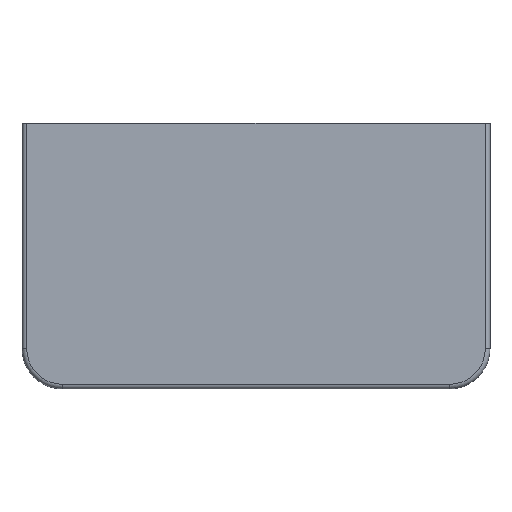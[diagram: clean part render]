
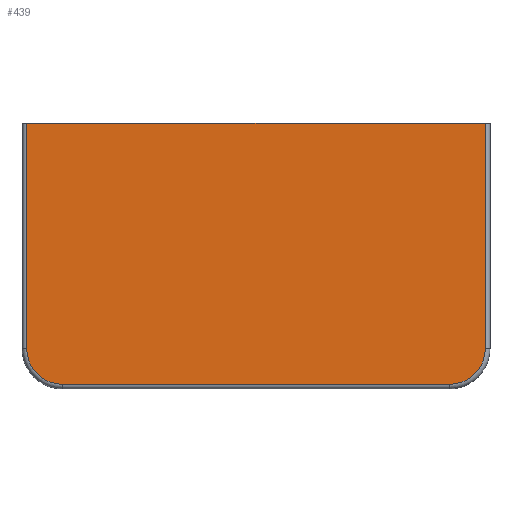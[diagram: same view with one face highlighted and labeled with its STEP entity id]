
A CAD part, front view. The second image highlights one B-rep face of the part: STEP entity #439.
In plain terms, the highlighted planar face has unit normal (0, -1, 0).
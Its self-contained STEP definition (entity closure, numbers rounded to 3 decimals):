
#25 = VERTEX_POINT ( 'NONE', #232 ) ;
#32 = CARTESIAN_POINT ( 'NONE',  ( -347.5, -51., 197.5 ) ) ;
#33 = AXIS2_PLACEMENT_3D ( 'NONE', #467, #591, #256 ) ;
#54 = VECTOR ( 'NONE', #240, 1000. ) ;
#83 = DIRECTION ( 'NONE',  ( 0., 1., 0. ) ) ;
#110 = LINE ( 'NONE', #635, #571 ) ;
#122 = DIRECTION ( 'NONE',  ( 1., 0., 0. ) ) ;
#128 = VECTOR ( 'NONE', #534, 1000. ) ;
#131 = LINE ( 'NONE', #696, #54 ) ;
#144 = VECTOR ( 'NONE', #390, 1000. ) ;
#153 = LINE ( 'NONE', #32, #144 ) ;
#165 = CIRCLE ( 'NONE', #33, 53. ) ;
#172 = EDGE_CURVE ( 'NONE', #652, #25, #131, .T. ) ;
#178 = ORIENTED_EDGE ( 'NONE', *, *, #172, .T. ) ;
#195 = DIRECTION ( 'NONE',  ( 0., 0., 1. ) ) ;
#206 = CARTESIAN_POINT ( 'NONE',  ( -287.5, -51., -190.5 ) ) ;
#221 = DIRECTION ( 'NONE',  ( 0., 0., 1. ) ) ;
#224 = AXIS2_PLACEMENT_3D ( 'NONE', #598, #83, #195 ) ;
#232 = CARTESIAN_POINT ( 'NONE',  ( 340.5, -51., 197.5 ) ) ;
#240 = DIRECTION ( 'NONE',  ( 0., 0., 1. ) ) ;
#247 = LINE ( 'NONE', #301, #128 ) ;
#256 = DIRECTION ( 'NONE',  ( 0., 0., 1. ) ) ;
#273 = EDGE_CURVE ( 'NONE', #535, #454, #703, .T. ) ;
#274 = VERTEX_POINT ( 'NONE', #413 ) ;
#284 = ORIENTED_EDGE ( 'NONE', *, *, #608, .T. ) ;
#301 = CARTESIAN_POINT ( 'NONE',  ( -340.5, -51., -137.5 ) ) ;
#304 = PLANE ( 'NONE',  #224 ) ;
#325 = VERTEX_POINT ( 'NONE', #469 ) ;
#329 = ORIENTED_EDGE ( 'NONE', *, *, #273, .T. ) ;
#336 = CARTESIAN_POINT ( 'NONE',  ( -287.5, -51., -137.5 ) ) ;
#350 = CARTESIAN_POINT ( 'NONE',  ( -340.5, -51., -137.5 ) ) ;
#375 = EDGE_CURVE ( 'NONE', #454, #325, #110, .T. ) ;
#390 = DIRECTION ( 'NONE',  ( 1., 0., 0. ) ) ;
#400 = ORIENTED_EDGE ( 'NONE', *, *, #714, .F. ) ;
#413 = CARTESIAN_POINT ( 'NONE',  ( -340.5, -51., 197.5 ) ) ;
#439 = ADVANCED_FACE ( 'NONE', ( #604 ), #304, .F. ) ;
#454 = VERTEX_POINT ( 'NONE', #206 ) ;
#467 = CARTESIAN_POINT ( 'NONE',  ( 287.5, -51., -137.5 ) ) ;
#469 = CARTESIAN_POINT ( 'NONE',  ( 287.5, -51., -190.5 ) ) ;
#476 = DIRECTION ( 'NONE',  ( 0., -1., 0. ) ) ;
#517 = EDGE_CURVE ( 'NONE', #325, #652, #165, .T. ) ;
#534 = DIRECTION ( 'NONE',  ( 0., 0., -1. ) ) ;
#535 = VERTEX_POINT ( 'NONE', #350 ) ;
#539 = ORIENTED_EDGE ( 'NONE', *, *, #517, .T. ) ;
#554 = CARTESIAN_POINT ( 'NONE',  ( 340.5, -51., -137.5 ) ) ;
#571 = VECTOR ( 'NONE', #122, 1000. ) ;
#591 = DIRECTION ( 'NONE',  ( 0., -1., 0. ) ) ;
#598 = CARTESIAN_POINT ( 'NONE',  ( 0., -51., 0. ) ) ;
#603 = EDGE_LOOP ( 'NONE', ( #539, #178, #400, #284, #329, #617 ) ) ;
#604 = FACE_OUTER_BOUND ( 'NONE', #603, .T. ) ;
#608 = EDGE_CURVE ( 'NONE', #274, #535, #247, .T. ) ;
#617 = ORIENTED_EDGE ( 'NONE', *, *, #375, .T. ) ;
#635 = CARTESIAN_POINT ( 'NONE',  ( 287.5, -51., -190.5 ) ) ;
#642 = AXIS2_PLACEMENT_3D ( 'NONE', #336, #476, #221 ) ;
#652 = VERTEX_POINT ( 'NONE', #554 ) ;
#696 = CARTESIAN_POINT ( 'NONE',  ( 340.5, -51., 197.5 ) ) ;
#703 = CIRCLE ( 'NONE', #642, 53. ) ;
#714 = EDGE_CURVE ( 'NONE', #274, #25, #153, .T. ) ;
